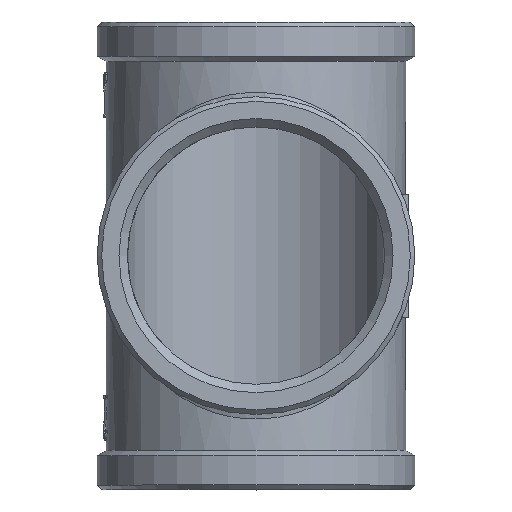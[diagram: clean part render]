
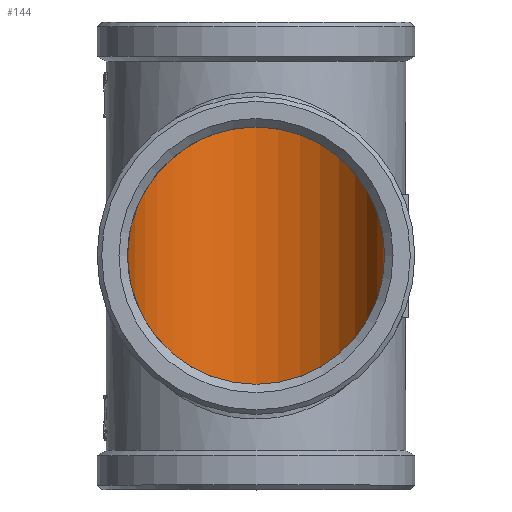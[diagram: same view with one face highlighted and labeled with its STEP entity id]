
A CAD part, top view. The second image highlights one B-rep face of the part: STEP entity #144.
In plain terms, the highlighted cylindrical face has radius 28.35 mm (diameter 56.7 mm), a full revolution.
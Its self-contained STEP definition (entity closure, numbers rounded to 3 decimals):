
#144=ADVANCED_FACE('',(#1346,#1348,#1350),#1352,.F.);
#1346=FACE_BOUND('',#1347,.T.);
#1347=EDGE_LOOP('',(#2822,#2823,#2824));
#1348=FACE_OUTER_BOUND('',#1349,.T.);
#1349=EDGE_LOOP('',(#2825));
#1350=FACE_OUTER_BOUND('',#1351,.T.);
#1351=EDGE_LOOP('',(#2826));
#1352=CYLINDRICAL_SURFACE('',#1353,28.35);
#1353=AXIS2_PLACEMENT_3D('',#1354,#1355,#1356);
#1354=CARTESIAN_POINT('',(0.,-52.5,0.));
#1355=DIRECTION('',(0.,1.,0.));
#1356=DIRECTION('',(-1.,0.,0.));
#2822=ORIENTED_EDGE('',*,*,#3943,.T.);
#2823=ORIENTED_EDGE('',*,*,#3944,.T.);
#2824=ORIENTED_EDGE('',*,*,#3945,.T.);
#2825=ORIENTED_EDGE('',*,*,#3941,.T.);
#2826=ORIENTED_EDGE('',*,*,#3940,.T.);
#3940=EDGE_CURVE('',#4820,#4820,#4821,.F.);
#3941=EDGE_CURVE('',#4822,#4822,#4823,.T.);
#3943=EDGE_CURVE('',#4826,#4827,#4828,.F.);
#3944=EDGE_CURVE('',#4827,#4829,#4830,.F.);
#3945=EDGE_CURVE('',#4829,#4826,#4831,.T.);
#4820=VERTEX_POINT('',#9540);
#4821=CIRCLE('',#9541,28.35);
#4822=VERTEX_POINT('',#9545);
#4823=CIRCLE('',#9546,28.35);
#4826=VERTEX_POINT('',#9555);
#4827=VERTEX_POINT('',#9556);
#4828=(BOUNDED_CURVE()B_SPLINE_CURVE(3,
(#9557,#9558,#9559,#9560),
.UNSPECIFIED.,.F.,.F.)B_SPLINE_CURVE_WITH_KNOTS((4,4),
(0.,1.),
.UNSPECIFIED.)CURVE()GEOMETRIC_REPRESENTATION_ITEM()RATIONAL_B_SPLINE_CURVE((1.,
0.805,0.805,1.))REPRESENTATION_ITEM(''));
#4829=VERTEX_POINT('',#9561);
#4830=(BOUNDED_CURVE()B_SPLINE_CURVE(3,
(#9562,#9563,#9564,#9565),
.UNSPECIFIED.,.F.,.F.)B_SPLINE_CURVE_WITH_KNOTS((4,4),
(0.,1.),
.UNSPECIFIED.)CURVE()GEOMETRIC_REPRESENTATION_ITEM()RATIONAL_B_SPLINE_CURVE((1.,
0.805,0.805,1.))REPRESENTATION_ITEM(''));
#4831=(BOUNDED_CURVE()B_SPLINE_CURVE(3,
(#9566,#9567,#9568,#9569),
.UNSPECIFIED.,.F.,.F.)B_SPLINE_CURVE_WITH_KNOTS((4,4),
(0.,1.),
.UNSPECIFIED.)CURVE()GEOMETRIC_REPRESENTATION_ITEM()RATIONAL_B_SPLINE_CURVE((1.,
0.333,0.333,1.))REPRESENTATION_ITEM(''));
#9540=CARTESIAN_POINT('',(-28.35,-49.65,0.));
#9541=AXIS2_PLACEMENT_3D('',#9542,#9543,#9544);
#9542=CARTESIAN_POINT('',(0.,-49.65,0.));
#9543=DIRECTION('',(0.,1.,0.));
#9544=DIRECTION('',(-1.,0.,0.));
#9545=CARTESIAN_POINT('',(-28.35,49.65,0.));
#9546=AXIS2_PLACEMENT_3D('',#9547,#9548,#9549);
#9547=CARTESIAN_POINT('',(0.,49.65,0.));
#9548=DIRECTION('',(0.,1.,0.));
#9549=DIRECTION('',(-1.,0.,0.));
#9555=CARTESIAN_POINT('',(28.35,0.,0.));
#9556=CARTESIAN_POINT('',(0.,28.35,28.35));
#9557=CARTESIAN_POINT('',(0.,28.35,28.35));
#9558=CARTESIAN_POINT('',(16.607,28.35,28.35));
#9559=CARTESIAN_POINT('',(28.35,16.607,16.607));
#9560=CARTESIAN_POINT('',(28.35,0.,0.));
#9561=CARTESIAN_POINT('',(-28.35,0.,0.));
#9562=CARTESIAN_POINT('',(-28.35,0.,0.));
#9563=CARTESIAN_POINT('',(-28.35,16.607,16.607));
#9564=CARTESIAN_POINT('',(-16.607,28.35,28.35));
#9565=CARTESIAN_POINT('',(0.,28.35,28.35));
#9566=CARTESIAN_POINT('',(-28.35,0.,0.));
#9567=CARTESIAN_POINT('',(-28.35,-56.7,56.7));
#9568=CARTESIAN_POINT('',(28.35,-56.7,56.7));
#9569=CARTESIAN_POINT('',(28.35,0.,0.));
